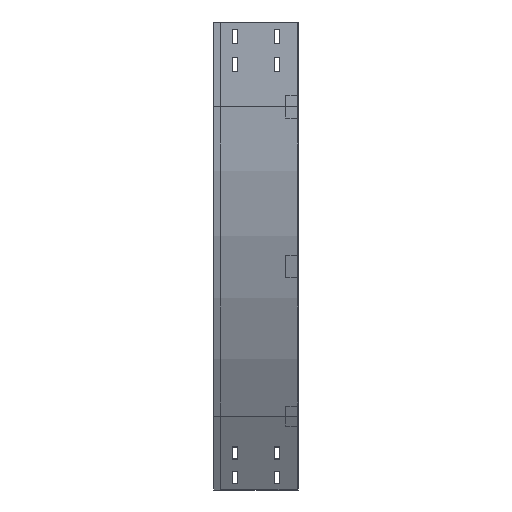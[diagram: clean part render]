
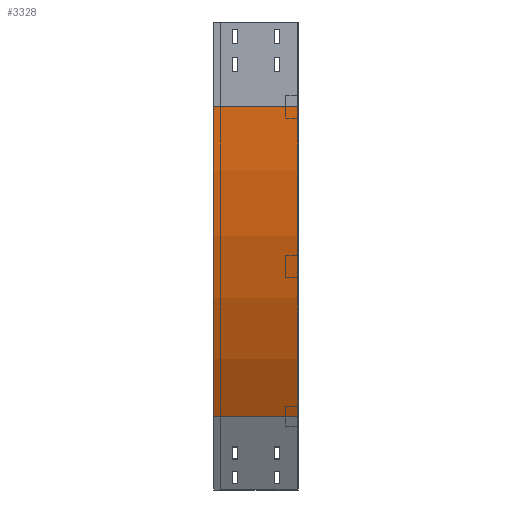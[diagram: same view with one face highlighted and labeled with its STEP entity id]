
A CAD part, left-side view. The second image highlights one B-rep face of the part: STEP entity #3328.
In plain terms, the highlighted cylindrical face has radius 1100 mm (diameter 2200 mm), a partial arc.
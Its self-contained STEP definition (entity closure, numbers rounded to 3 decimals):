
#14 = LINE ( 'NONE', #321, #3500 ) ;
#18 = CIRCLE ( 'NONE', #2184, 1100. ) ;
#60 = EDGE_CURVE ( 'NONE', #628, #1591, #18, .T. ) ;
#92 = VERTEX_POINT ( 'NONE', #2609 ) ;
#187 = ORIENTED_EDGE ( 'NONE', *, *, #1203, .F. ) ;
#321 = CARTESIAN_POINT ( 'NONE',  ( 0., 0., -150. ) ) ;
#532 = DIRECTION ( 'NONE',  ( -1., 0., 0. ) ) ;
#628 = VERTEX_POINT ( 'NONE', #951 ) ;
#682 = CARTESIAN_POINT ( 'NONE',  ( 0., 150., -150. ) ) ;
#706 = FACE_OUTER_BOUND ( 'NONE', #2383, .T. ) ;
#713 = LINE ( 'NONE', #3084, #3106 ) ;
#790 = AXIS2_PLACEMENT_3D ( 'NONE', #3330, #2141, #2636 ) ;
#794 = CARTESIAN_POINT ( 'NONE',  ( 147.372, 0., -700. ) ) ;
#951 = CARTESIAN_POINT ( 'NONE',  ( 0., 0., -150. ) ) ;
#1200 = DIRECTION ( 'NONE',  ( 0., -1., 0. ) ) ;
#1203 = EDGE_CURVE ( 'NONE', #2658, #628, #14, .T. ) ;
#1329 = ORIENTED_EDGE ( 'NONE', *, *, #2155, .T. ) ;
#1414 = DIRECTION ( 'NONE',  ( 0., -1., 0. ) ) ;
#1492 = AXIS2_PLACEMENT_3D ( 'NONE', #3588, #2435, #3320 ) ;
#1591 = VERTEX_POINT ( 'NONE', #794 ) ;
#2057 = ORIENTED_EDGE ( 'NONE', *, *, #60, .F. ) ;
#2141 = DIRECTION ( 'NONE',  ( 0., -1., 0. ) ) ;
#2155 = EDGE_CURVE ( 'NONE', #92, #1591, #713, .T. ) ;
#2184 = AXIS2_PLACEMENT_3D ( 'NONE', #3547, #1414, #532 ) ;
#2319 = ORIENTED_EDGE ( 'NONE', *, *, #2804, .T. ) ;
#2383 = EDGE_LOOP ( 'NONE', ( #2057, #187, #2319, #1329 ) ) ;
#2435 = DIRECTION ( 'NONE',  ( 0., -1., 0. ) ) ;
#2609 = CARTESIAN_POINT ( 'NONE',  ( 147.372, 150., -700. ) ) ;
#2636 = DIRECTION ( 'NONE',  ( -1., 0., 0. ) ) ;
#2658 = VERTEX_POINT ( 'NONE', #682 ) ;
#2804 = EDGE_CURVE ( 'NONE', #2658, #92, #3146, .T. ) ;
#2860 = DIRECTION ( 'NONE',  ( 0., -1., 0. ) ) ;
#3084 = CARTESIAN_POINT ( 'NONE',  ( 147.372, 0., -700. ) ) ;
#3106 = VECTOR ( 'NONE', #2860, 1000. ) ;
#3146 = CIRCLE ( 'NONE', #790, 1100. ) ;
#3320 = DIRECTION ( 'NONE',  ( 0., 0., -1. ) ) ;
#3328 = ADVANCED_FACE ( 'NONE', ( #706 ), #3338, .T. ) ;
#3330 = CARTESIAN_POINT ( 'NONE',  ( 1100., 150., -150. ) ) ;
#3338 = CYLINDRICAL_SURFACE ( 'NONE', #1492, 1100. ) ;
#3500 = VECTOR ( 'NONE', #1200, 1000. ) ;
#3547 = CARTESIAN_POINT ( 'NONE',  ( 1100., 0., -150. ) ) ;
#3588 = CARTESIAN_POINT ( 'NONE',  ( 1100., 0., -150. ) ) ;
